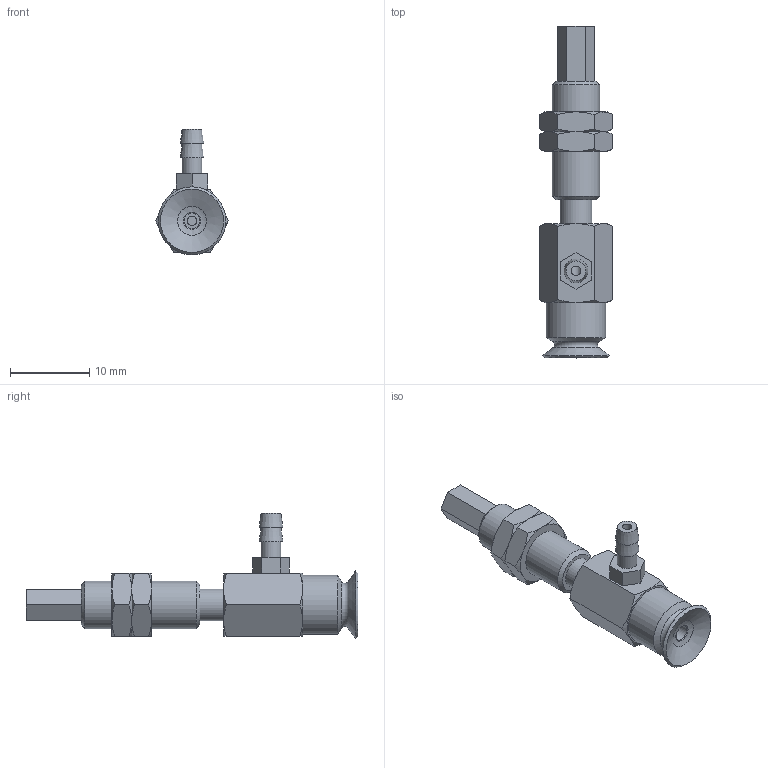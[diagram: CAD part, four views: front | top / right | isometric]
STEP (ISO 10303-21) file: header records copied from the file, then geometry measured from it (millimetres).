
FILE_DESCRIPTION(('STEP AP203'),'1');
FILE_NAME('-T.stp','2025-04-09T06:22:16',(' '),(' '),'Spatial InterOp 3D',' ',' ');
FILE_SCHEMA(('CONFIG_CONTROL_DESIGN'));
Length unit declared in the file: millimetre
Products named in the file (7): BNABPFYS-8A-3-※-T; CONNECTOR-8A-3; Nut-8A-3-s; NAPFTS-8A-3-FBODY; NAPFTS-8A-3-MBODY; BPFG-8A-※; T (2)
Assembly tree (7 placements, depth 2):
  BNABPFYS-8A-3-※-T
    CONNECTOR-8A-3
    Nut-8A-3-s  x2
    NAPFTS-8A-3-FBODY
    NAPFTS-8A-3-MBODY
    BPFG-8A-※
    T (2)
Bounding box: 9.24 x 42 x 15.9 mm (x, y, z)
Volume: 1532.7 mm3; surface area: 2388.4 mm2
Topology: 7 solids, 7 shells, 150 faces, 316 edges, 190 vertices
Faces by surface type: plane 68, cone 55, cylinder 18, torus 8, bspline 1
Full cylindrical faces by diameter (mm): 1.2 x2, 2 x1, 2.459 x2, 2.5 x1, 3 x2, 4 x4, 5.188 x2, 6 x3, 7.5 x1
Entity records: 3695 total; most frequent: CARTESIAN_POINT 854, DIRECTION 524, ORIENTED_EDGE 438, AXIS2_PLACEMENT_3D 225, EDGE_CURVE 219, EDGE_LOOP 190, VERTEX_POINT 155, FACE_OUTER_BOUND 153
